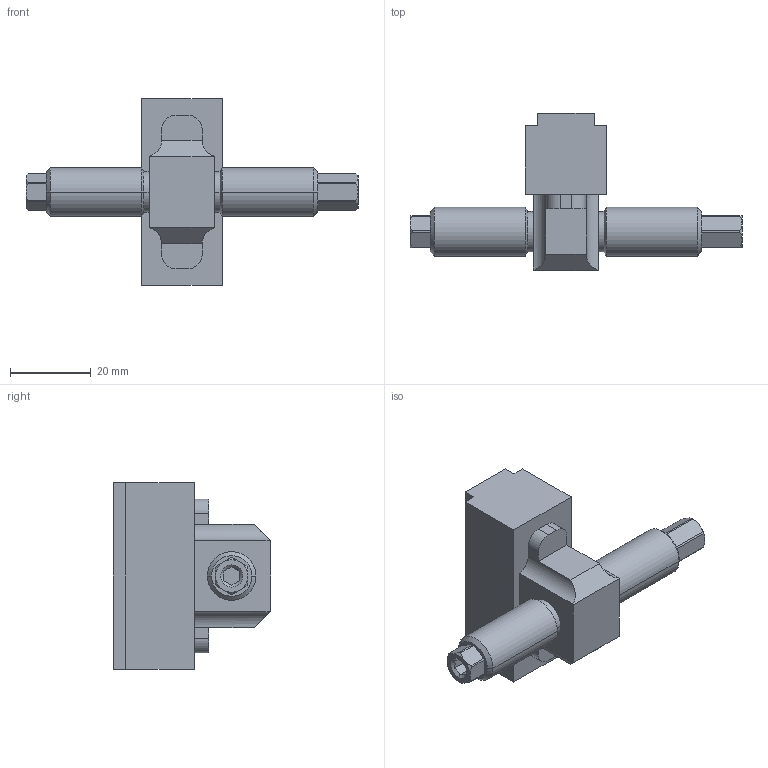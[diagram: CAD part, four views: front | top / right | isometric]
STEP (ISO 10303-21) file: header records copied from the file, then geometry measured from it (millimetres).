
FILE_DESCRIPTION (( 'STEP AP214' ), '1' );
FILE_NAME ('47065-TG.STEP', '2023-02-08T12:51:12', ( '' ), ( '' ), 'SwSTEP 2.0', 'SolidWorks 2021', '' );
FILE_SCHEMA (( 'AUTOMOTIVE_DESIGN' ));
Length unit declared in the file: millimetre
Products named in the file (1): 47065-TG
Bounding box: 82 x 38.8 x 46 mm (x, y, z)
Volume: 33575.1 mm3; surface area: 9371 mm2
Topology: 2 solids, 2 shells, 115 faces, 276 edges, 172 vertices
Faces by surface type: plane 57, cylinder 30, cone 28
Entity records: 4802 total; most frequent: CARTESIAN_POINT 840, ORIENTED_EDGE 552, DIRECTION 548, EDGE_CURVE 276, AXIS2_PLACEMENT_3D 196, VERTEX_POINT 172, LINE 156, VECTOR 156
